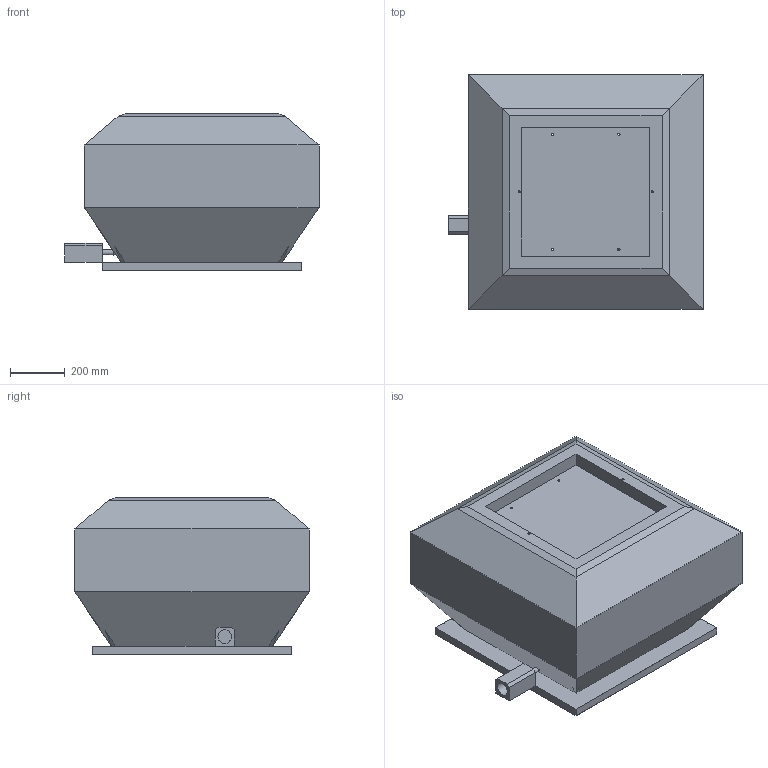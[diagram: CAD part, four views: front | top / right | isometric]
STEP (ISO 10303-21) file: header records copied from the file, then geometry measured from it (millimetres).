
FILE_DESCRIPTION(/* description */ (''),/* implementation_level */ '2;1');
FILE_NAME(/* name */ 'Z:\Output\VDD_450-6-07380-001.stp',/* time_stamp */ '2017-09-26T12:12:20+02:00',/* author */ ('engineering1'),/* organization */ (''),/* preprocessor_version */ 'ST-DEVELOPER v16.5',/* originating_system */ 'Autodesk Inventor 2017',/* authorisation */ '');
FILE_SCHEMA (('AUTOMOTIVE_DESIGN { 1 0 10303 214 3 1 1 }'));
Length unit declared in the file: millimetre
Products named in the file (1): VD-1
Bounding box: 931 x 860 x 574 mm (x, y, z)
Volume: 328612488.9 mm3; surface area: 3458537 mm2
Topology: 1 solids, 1 shells, 59 faces, 142 edges, 90 vertices
Faces by surface type: plane 50, cylinder 8, bspline 1
Full cylindrical faces by diameter (mm): 8 x6, 20 x1, 50 x1
Entity records: 1825 total; most frequent: CARTESIAN_POINT 355, ORIENTED_EDGE 268, DIRECTION 267, EDGE_CURVE 133, LINE 115, VECTOR 115, VERTEX_POINT 89, EDGE_LOOP 85
